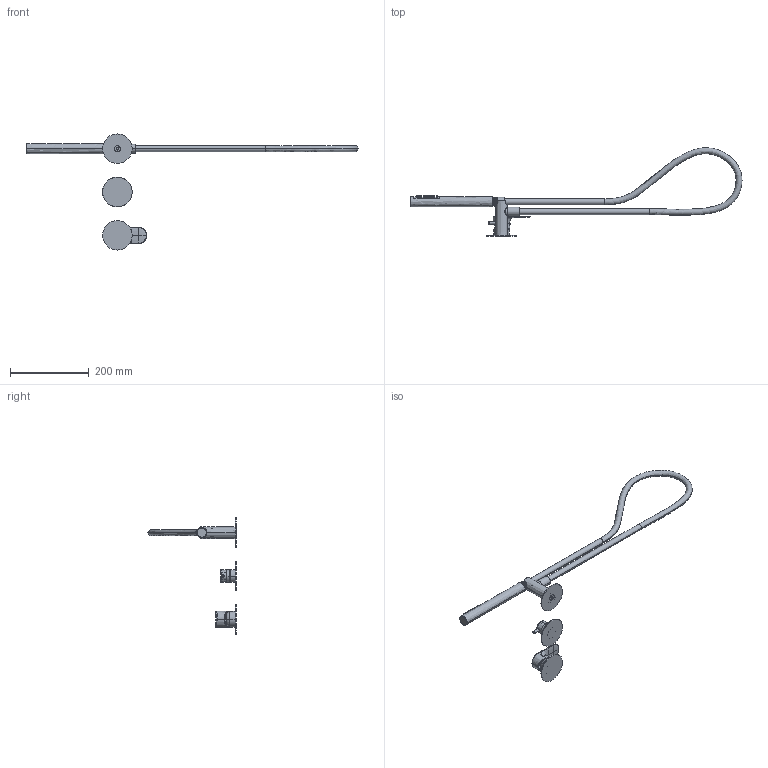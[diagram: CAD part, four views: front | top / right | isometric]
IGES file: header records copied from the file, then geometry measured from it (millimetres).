
Start section:  PTC IGES file: 64559V3.igs
Global section: file name: 64559V3.igs; native system: Creo Parametric by PTC Inc.; preprocessor: 2022014; author: carloff; organization: Unknown; date: 20241217.151641; units: millimetre
Bounding box: 842.91 x 223.99 x 295 mm (x, y, z)
Surface area: 183596.7 mm2 (no closed solid volume)
Topology: 0 solids, 0 shells, 770 faces, 3796 edges, 3770 vertices
Faces by surface type: revolution 483, bspline 285, extrusion 2
